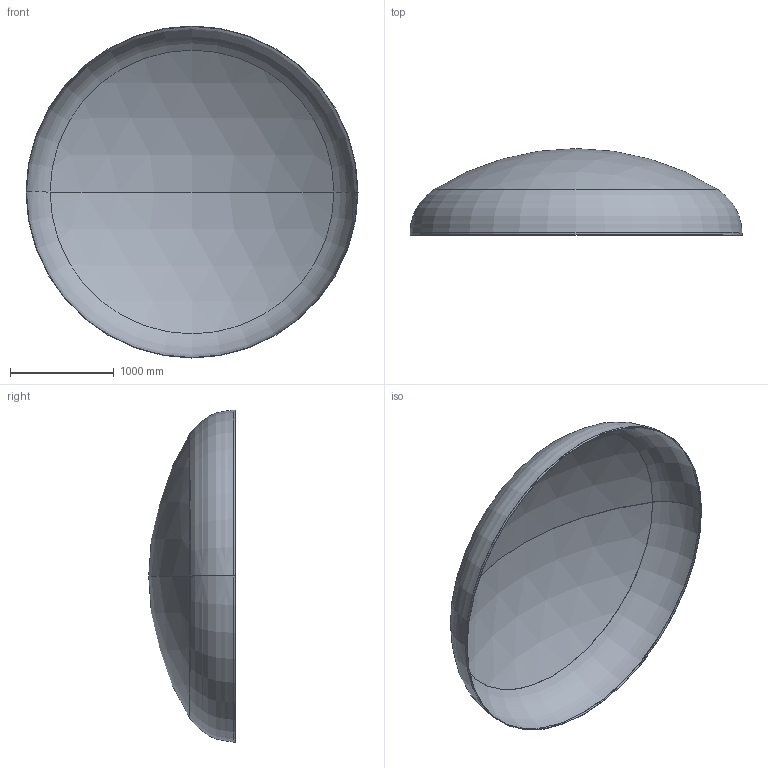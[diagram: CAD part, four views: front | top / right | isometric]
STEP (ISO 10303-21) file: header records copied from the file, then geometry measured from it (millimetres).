
FILE_DESCRIPTION (( 'STEP AP203' ), '1' );
FILE_NAME ('DIN 28013 Korbbogenform_-_Boden DIN 28013 - 3200 x 20 - I - s=4.step', '2016-07-01T18:14:15', ( '' ), ( '' ), 'SwSTEP 2.0', 'SolidWorks 2013', '' );
FILE_SCHEMA (( 'CONFIG_CONTROL_DESIGN' ));
Length unit declared in the file: millimetre
Products named in the file (1): DIN 28013 Korbbogenform_-_Boden DIN 28013 - 3200 x 20 - I - s=4
Bounding box: 3200 x 834.24 x 3200 mm (x, y, z)
Volume: 45240413.3 mm3; surface area: 22660392.9 mm2
Topology: 1 solids, 1 shells, 13 faces, 24 edges, 14 vertices
Faces by surface type: torus 4, cylinder 4, sphere 4, plane 1
Entity records: 407 total; most frequent: DIRECTION 72, CARTESIAN_POINT 52, ORIENTED_EDGE 48, AXIS2_PLACEMENT_3D 34, EDGE_CURVE 24, CIRCLE 20, VERTEX_POINT 14, EDGE_LOOP 14
